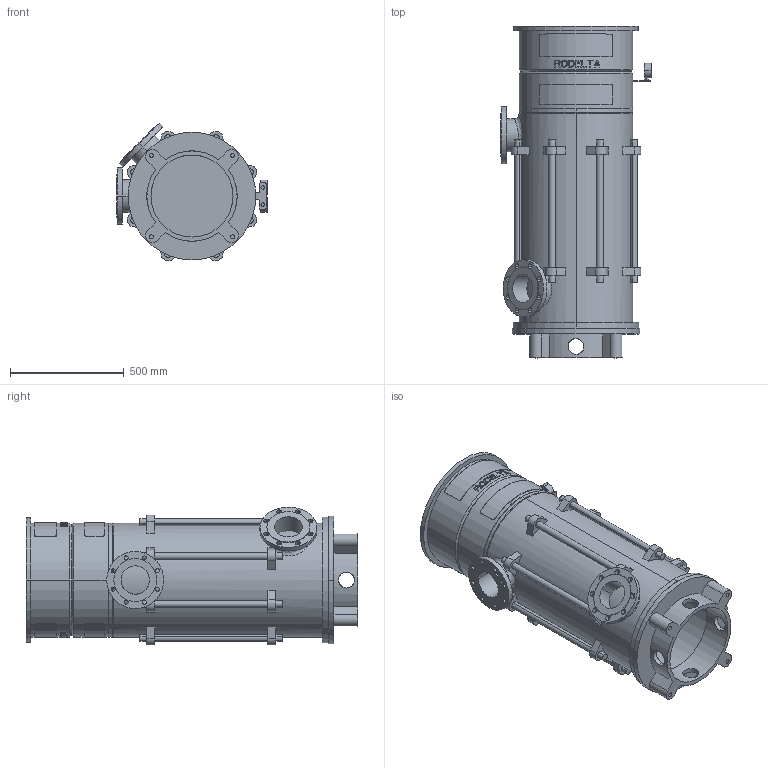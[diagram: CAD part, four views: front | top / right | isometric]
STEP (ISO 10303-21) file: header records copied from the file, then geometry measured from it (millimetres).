
FILE_DESCRIPTION((''),'2;1');
FILE_NAME('LS5_5TR_0GR_ABOVE_30KW','2023-08-08T',('Lyritlocal'),(''),'PRO/ENGINEER BY PARAMETRIC TECHNOLOGY CORPORATION, 2016360','PRO/ENGINEER BY PARAMETRIC TECHNOLOGY CORPORATION, 2016360','');
FILE_SCHEMA(('CONFIG_CONTROL_DESIGN'));
Length unit declared in the file: millimetre
Products named in the file (1): LS5_5TR_0GR_ABOVE_30KW
Bounding box: 660 x 1456 x 603.65 mm (x, y, z)
Volume: 44157364.6 mm3; surface area: 6451066.7 mm2
Topology: 3 solids, 7 shells, 672 faces, 1747 edges, 1158 vertices
Faces by surface type: plane 414, cylinder 242, cone 12, bspline 4
Entity records: 21980 total; most frequent: CARTESIAN_POINT 5536, ORIENTED_EDGE 3478, DIRECTION 3269, EDGE_CURVE 1747, AXIS2_PLACEMENT_3D 1241, VERTEX_POINT 1158, EDGE_LOOP 809, VECTOR 787
